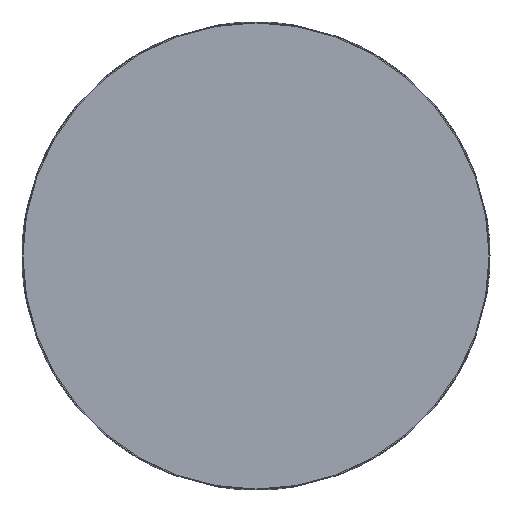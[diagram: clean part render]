
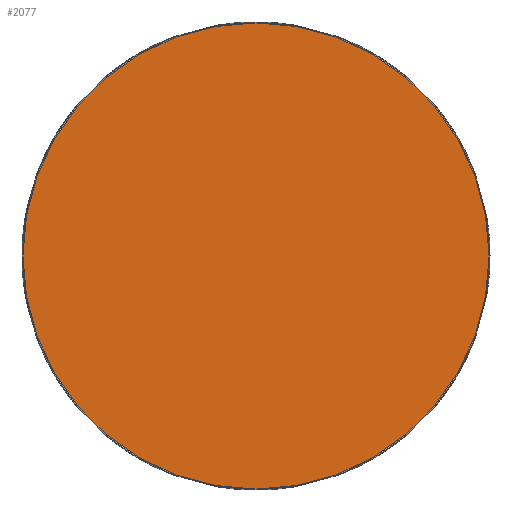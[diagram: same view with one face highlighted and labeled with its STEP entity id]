
A CAD part, left-side view. The second image highlights one B-rep face of the part: STEP entity #2077.
In plain terms, the highlighted planar face has unit normal (-1, 0, 0).
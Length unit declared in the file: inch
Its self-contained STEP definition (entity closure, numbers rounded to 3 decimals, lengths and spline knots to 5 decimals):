
#25 = AXIS2_PLACEMENT_3D ( 'NONE', #64, #70, #76 ) ;
#38 = EDGE_CURVE ( 'NONE', #1476, #2670, #619, .T. ) ;
#64 = CARTESIAN_POINT ( 'NONE',  ( -4.31682, 0.24176, 0. ) ) ;
#70 = DIRECTION ( 'NONE',  ( 1., 0., 0. ) ) ;
#76 = DIRECTION ( 'NONE',  ( 0., 0., -1. ) ) ;
#370 = CIRCLE ( 'NONE', #2241, 1.245 ) ;
#619 = CIRCLE ( 'NONE', #25, 1.245 ) ;
#1054 = DIRECTION ( 'NONE',  ( -1., 0., 0. ) ) ;
#1286 = CARTESIAN_POINT ( 'NONE',  ( -4.31682, 0.86426, 0. ) ) ;
#1410 = EDGE_CURVE ( 'NONE', #2670, #1476, #370, .T. ) ;
#1430 = ORIENTED_EDGE ( 'NONE', *, *, #1410, .F. ) ;
#1476 = VERTEX_POINT ( 'NONE', #1883 ) ;
#1723 = CARTESIAN_POINT ( 'NONE',  ( -4.31682, 0.24176, -1.245 ) ) ;
#1741 = FACE_OUTER_BOUND ( 'NONE', #2167, .T. ) ;
#1883 = CARTESIAN_POINT ( 'NONE',  ( -4.31682, 0.24176, 1.245 ) ) ;
#1930 = AXIS2_PLACEMENT_3D ( 'NONE', #1286, #1054, #2874 ) ;
#2077 = ADVANCED_FACE ( 'NONE', ( #1741 ), #2307, .T. ) ;
#2167 = EDGE_LOOP ( 'NONE', ( #1430, #3221 ) ) ;
#2241 = AXIS2_PLACEMENT_3D ( 'NONE', #3263, #3309, #3287 ) ;
#2307 = PLANE ( 'NONE',  #1930 ) ;
#2670 = VERTEX_POINT ( 'NONE', #1723 ) ;
#2874 = DIRECTION ( 'NONE',  ( 0., 0., 1. ) ) ;
#3221 = ORIENTED_EDGE ( 'NONE', *, *, #38, .F. ) ;
#3263 = CARTESIAN_POINT ( 'NONE',  ( -4.31682, 0.24176, 0. ) ) ;
#3287 = DIRECTION ( 'NONE',  ( 0., 0., -1. ) ) ;
#3309 = DIRECTION ( 'NONE',  ( 1., 0., 0. ) ) ;
